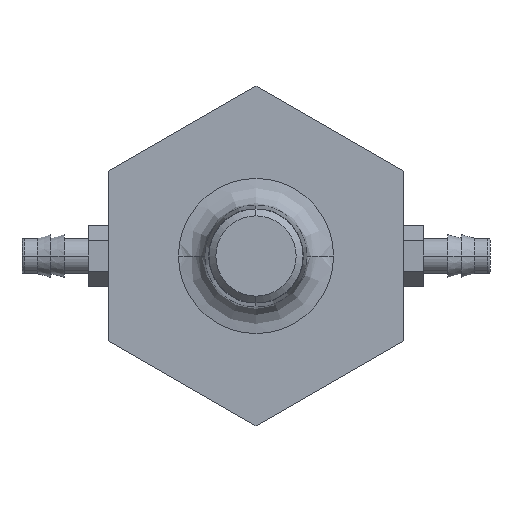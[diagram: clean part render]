
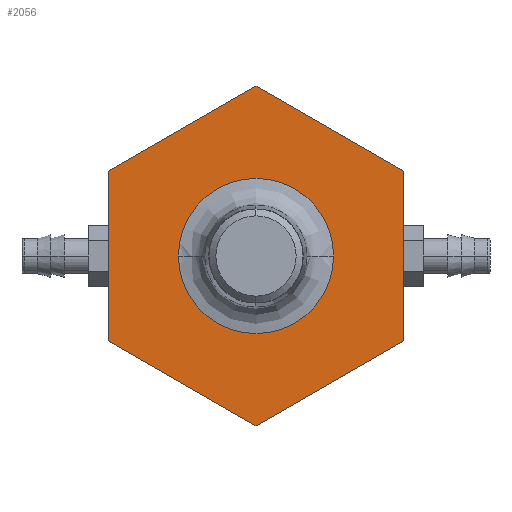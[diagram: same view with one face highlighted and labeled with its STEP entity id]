
A CAD part, left-side view. The second image highlights one B-rep face of the part: STEP entity #2056.
In plain terms, the highlighted planar face has unit normal (-1, 0, 0).
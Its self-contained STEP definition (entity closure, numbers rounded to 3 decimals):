
#1797=CARTESIAN_POINT('',(-3.25,0.363,0.));
#1798=VERTEX_POINT('',#1797);
#1808=CARTESIAN_POINT('',(-3.25,-0.363,0.));
#1809=VERTEX_POINT('',#1808);
#1810=CARTESIAN_POINT('',(-3.25,0.0,0.0));
#1811=DIRECTION('',(-1.0,0.0,0.0));
#1812=DIRECTION('',(0.0,0.0,1.0));
#1813=AXIS2_PLACEMENT_3D('',#1810,#1811,#1812);
#1814=CIRCLE('',#1813,0.363);
#1815=EDGE_CURVE('',#1798,#1809,#1814,.T.);
#1964=CARTESIAN_POINT('',(-3.25,0.0,0.363));
#1965=VERTEX_POINT('',#1964);
#1966=CARTESIAN_POINT('',(-3.25,0.0,0.0));
#1967=DIRECTION('',(-1.0,0.0,0.0));
#1968=DIRECTION('',(0.0,0.0,1.0));
#1969=AXIS2_PLACEMENT_3D('',#1966,#1967,#1968);
#1970=CIRCLE('',#1969,0.363);
#1971=EDGE_CURVE('',#1809,#1965,#1970,.T.);
#1973=CARTESIAN_POINT('',(-3.25,0.0,0.0));
#1974=DIRECTION('',(-1.0,0.0,0.0));
#1975=DIRECTION('',(0.0,0.0,1.0));
#1976=AXIS2_PLACEMENT_3D('',#1973,#1974,#1975);
#1977=CIRCLE('',#1976,0.363);
#1978=EDGE_CURVE('',#1965,#1798,#1977,.T.);
#1996=CARTESIAN_POINT('',(-3.25,0.,0.0));
#1997=DIRECTION('',(-1.0,0.0,0.0));
#1998=DIRECTION('',(0.0,0.0,1.0));
#1999=AXIS2_PLACEMENT_3D('',#1996,#1997,#1998);
#2000=PLANE('',#1999);
#2001=CARTESIAN_POINT('',(-3.25,0.688,0.397));
#2002=VERTEX_POINT('',#2001);
#2003=CARTESIAN_POINT('',(-3.25,0.0,0.794));
#2004=VERTEX_POINT('',#2003);
#2005=CARTESIAN_POINT('',(-3.25,0.688,0.397));
#2006=DIRECTION('',(0.0,-0.866,0.5));
#2007=VECTOR('',#2006,0.794);
#2008=LINE('',#2005,#2007);
#2009=EDGE_CURVE('',#2002,#2004,#2008,.T.);
#2010=ORIENTED_EDGE('',*,*,#2009,.F.);
#2011=CARTESIAN_POINT('',(-3.25,0.688,-0.397));
#2012=VERTEX_POINT('',#2011);
#2013=CARTESIAN_POINT('',(-3.25,0.688,-0.397));
#2014=DIRECTION('',(0.0,0.0,1.0));
#2015=VECTOR('',#2014,0.794);
#2016=LINE('',#2013,#2015);
#2017=EDGE_CURVE('',#2012,#2002,#2016,.T.);
#2018=ORIENTED_EDGE('',*,*,#2017,.F.);
#2019=CARTESIAN_POINT('',(-3.25,0.,-0.794));
#2020=VERTEX_POINT('',#2019);
#2021=CARTESIAN_POINT('',(-3.25,0.,-0.794));
#2022=DIRECTION('',(0.0,0.866,0.5));
#2023=VECTOR('',#2022,0.794);
#2024=LINE('',#2021,#2023);
#2025=EDGE_CURVE('',#2020,#2012,#2024,.T.);
#2026=ORIENTED_EDGE('',*,*,#2025,.F.);
#2027=CARTESIAN_POINT('',(-3.25,-0.688,-0.397));
#2028=VERTEX_POINT('',#2027);
#2029=CARTESIAN_POINT('',(-3.25,-0.688,-0.397));
#2030=DIRECTION('',(0.0,0.866,-0.5));
#2031=VECTOR('',#2030,0.794);
#2032=LINE('',#2029,#2031);
#2033=EDGE_CURVE('',#2028,#2020,#2032,.T.);
#2034=ORIENTED_EDGE('',*,*,#2033,.F.);
#2035=CARTESIAN_POINT('',(-3.25,-0.688,0.397));
#2036=VERTEX_POINT('',#2035);
#2037=CARTESIAN_POINT('',(-3.25,-0.688,0.397));
#2038=DIRECTION('',(0.0,0.0,-1.0));
#2039=VECTOR('',#2038,0.794);
#2040=LINE('',#2037,#2039);
#2041=EDGE_CURVE('',#2036,#2028,#2040,.T.);
#2042=ORIENTED_EDGE('',*,*,#2041,.F.);
#2043=CARTESIAN_POINT('',(-3.25,0.0,0.794));
#2044=DIRECTION('',(0.0,-0.866,-0.5));
#2045=VECTOR('',#2044,0.794);
#2046=LINE('',#2043,#2045);
#2047=EDGE_CURVE('',#2004,#2036,#2046,.T.);
#2048=ORIENTED_EDGE('',*,*,#2047,.F.);
#2049=EDGE_LOOP('',(#2010,#2018,#2026,#2034,#2042,#2048));
#2050=FACE_OUTER_BOUND('',#2049,.T.);
#2051=ORIENTED_EDGE('',*,*,#1978,.F.);
#2052=ORIENTED_EDGE('',*,*,#1971,.F.);
#2053=ORIENTED_EDGE('',*,*,#1815,.F.);
#2054=EDGE_LOOP('',(#2051,#2052,#2053));
#2055=FACE_BOUND('',#2054,.T.);
#2056=ADVANCED_FACE('',(#2050,#2055),#2000,.T.);
